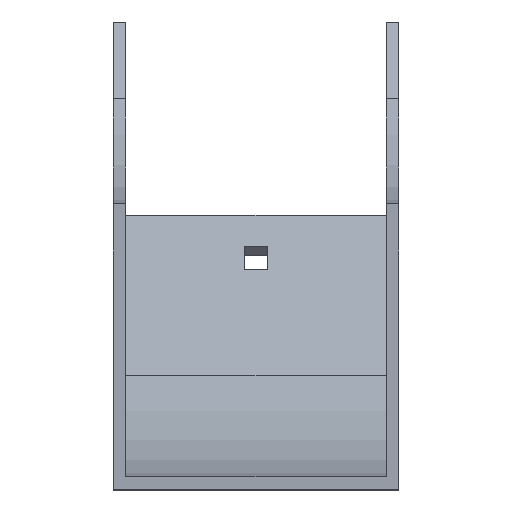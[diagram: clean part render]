
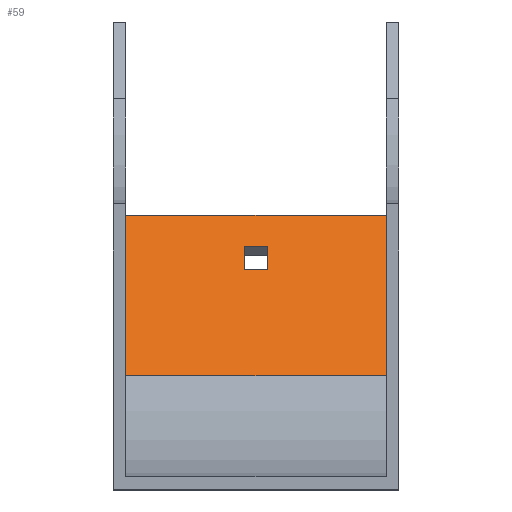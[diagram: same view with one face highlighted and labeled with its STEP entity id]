
A CAD part, top view. The second image highlights one B-rep face of the part: STEP entity #59.
In plain terms, the highlighted planar face has unit normal (0, 0.707, 0.707).
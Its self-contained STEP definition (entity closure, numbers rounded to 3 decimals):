
#33 = EDGE_CURVE ( 'NONE', #1297, #1028, #1034, .T. ) ;
#59 = ADVANCED_FACE ( 'NONE', ( #1212, #1102 ), #292, .T. ) ;
#92 = EDGE_CURVE ( 'NONE', #1028, #990, #1497, .T. ) ;
#123 = CARTESIAN_POINT ( 'NONE',  ( -3.25, -17.733, -160.461 ) ) ;
#157 = CARTESIAN_POINT ( 'NONE',  ( -3.25, -11.369, -166.825 ) ) ;
#195 = CARTESIAN_POINT ( 'NONE',  ( -3.25, -17.733, -160.461 ) ) ;
#229 = EDGE_LOOP ( 'NONE', ( #500, #351, #1245, #988 ) ) ;
#242 = CARTESIAN_POINT ( 'NONE',  ( -36., -2.884, -175.31 ) ) ;
#292 = PLANE ( 'NONE',  #1643 ) ;
#314 = CARTESIAN_POINT ( 'NONE',  ( 39.5, -2.884, -175.31 ) ) ;
#326 = VECTOR ( 'NONE', #770, 1000. ) ;
#351 = ORIENTED_EDGE ( 'NONE', *, *, #1768, .F. ) ;
#446 = EDGE_CURVE ( 'NONE', #1020, #603, #1450, .T. ) ;
#500 = ORIENTED_EDGE ( 'NONE', *, *, #1915, .F. ) ;
#552 = VERTEX_POINT ( 'NONE', #1795 ) ;
#562 = DIRECTION ( 'NONE',  ( 0., 0.707, -0.707 ) ) ;
#588 = VECTOR ( 'NONE', #1798, 1000. ) ;
#603 = VERTEX_POINT ( 'NONE', #157 ) ;
#646 = DIRECTION ( 'NONE',  ( 0., 0.707, 0.707 ) ) ;
#654 = LINE ( 'NONE', #1942, #1061 ) ;
#734 = CARTESIAN_POINT ( 'NONE',  ( -36., -47.236, -130.959 ) ) ;
#747 = CARTESIAN_POINT ( 'NONE',  ( 36., -2.884, -175.31 ) ) ;
#770 = DIRECTION ( 'NONE',  ( -1., 0., 0. ) ) ;
#792 = DIRECTION ( 'NONE',  ( -1., 0., 0. ) ) ;
#887 = DIRECTION ( 'NONE',  ( -1., 0., 0. ) ) ;
#888 = ORIENTED_EDGE ( 'NONE', *, *, #1419, .T. ) ;
#926 = VECTOR ( 'NONE', #968, 1000. ) ;
#968 = DIRECTION ( 'NONE',  ( 0., 0.707, -0.707 ) ) ;
#988 = ORIENTED_EDGE ( 'NONE', *, *, #92, .T. ) ;
#990 = VERTEX_POINT ( 'NONE', #1177 ) ;
#1020 = VERTEX_POINT ( 'NONE', #123 ) ;
#1028 = VERTEX_POINT ( 'NONE', #747 ) ;
#1034 = LINE ( 'NONE', #1634, #1425 ) ;
#1061 = VECTOR ( 'NONE', #1160, 1000. ) ;
#1092 = EDGE_LOOP ( 'NONE', ( #1693, #1127, #888, #1614 ) ) ;
#1102 = FACE_BOUND ( 'NONE', #1092, .T. ) ;
#1127 = ORIENTED_EDGE ( 'NONE', *, *, #446, .T. ) ;
#1160 = DIRECTION ( 'NONE',  ( 0., -0.707, 0.707 ) ) ;
#1166 = CARTESIAN_POINT ( 'NONE',  ( 36., -47.236, -130.959 ) ) ;
#1177 = CARTESIAN_POINT ( 'NONE',  ( -36., -2.884, -175.31 ) ) ;
#1206 = VECTOR ( 'NONE', #887, 1000. ) ;
#1211 = LINE ( 'NONE', #1523, #326 ) ;
#1212 = FACE_OUTER_BOUND ( 'NONE', #229, .T. ) ;
#1245 = ORIENTED_EDGE ( 'NONE', *, *, #33, .T. ) ;
#1276 = LINE ( 'NONE', #242, #926 ) ;
#1297 = VERTEX_POINT ( 'NONE', #1166 ) ;
#1313 = VECTOR ( 'NONE', #792, 1000. ) ;
#1419 = EDGE_CURVE ( 'NONE', #603, #552, #1939, .T. ) ;
#1425 = VECTOR ( 'NONE', #1786, 1000. ) ;
#1450 = LINE ( 'NONE', #1899, #1796 ) ;
#1497 = LINE ( 'NONE', #1653, #1206 ) ;
#1523 = CARTESIAN_POINT ( 'NONE',  ( 39.5, -47.236, -130.959 ) ) ;
#1534 = VERTEX_POINT ( 'NONE', #1836 ) ;
#1538 = LINE ( 'NONE', #195, #1313 ) ;
#1542 = EDGE_CURVE ( 'NONE', #1534, #1020, #1538, .T. ) ;
#1566 = EDGE_CURVE ( 'NONE', #552, #1534, #654, .T. ) ;
#1614 = ORIENTED_EDGE ( 'NONE', *, *, #1566, .T. ) ;
#1634 = CARTESIAN_POINT ( 'NONE',  ( 36., -2.884, -175.31 ) ) ;
#1643 = AXIS2_PLACEMENT_3D ( 'NONE', #314, #646, #1698 ) ;
#1653 = CARTESIAN_POINT ( 'NONE',  ( 39.5, -2.884, -175.31 ) ) ;
#1675 = VERTEX_POINT ( 'NONE', #734 ) ;
#1693 = ORIENTED_EDGE ( 'NONE', *, *, #1542, .T. ) ;
#1698 = DIRECTION ( 'NONE',  ( 0., -0.707, 0.707 ) ) ;
#1768 = EDGE_CURVE ( 'NONE', #1297, #1675, #1211, .T. ) ;
#1786 = DIRECTION ( 'NONE',  ( 0., 0.707, -0.707 ) ) ;
#1790 = CARTESIAN_POINT ( 'NONE',  ( -3.25, -11.369, -166.825 ) ) ;
#1795 = CARTESIAN_POINT ( 'NONE',  ( 3.25, -11.369, -166.825 ) ) ;
#1796 = VECTOR ( 'NONE', #562, 1000. ) ;
#1798 = DIRECTION ( 'NONE',  ( 1., 0., 0. ) ) ;
#1836 = CARTESIAN_POINT ( 'NONE',  ( 3.25, -17.733, -160.461 ) ) ;
#1899 = CARTESIAN_POINT ( 'NONE',  ( -3.25, -17.733, -160.461 ) ) ;
#1915 = EDGE_CURVE ( 'NONE', #1675, #990, #1276, .T. ) ;
#1939 = LINE ( 'NONE', #1790, #588 ) ;
#1942 = CARTESIAN_POINT ( 'NONE',  ( 3.25, -17.733, -160.461 ) ) ;
